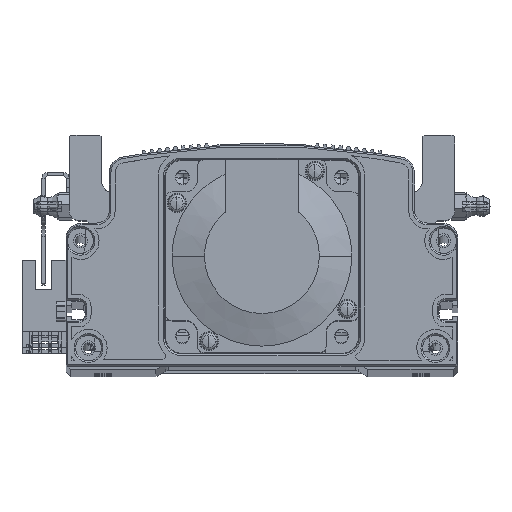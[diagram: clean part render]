
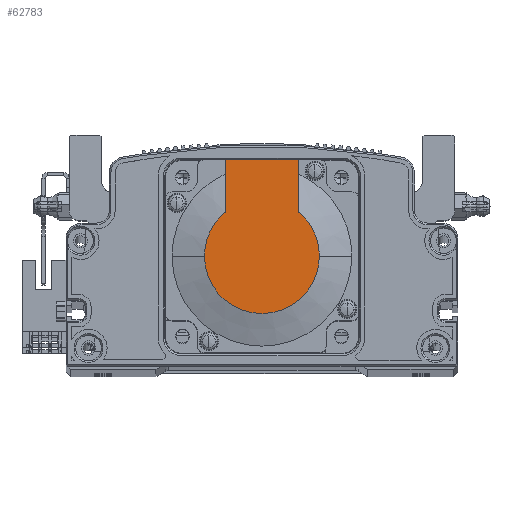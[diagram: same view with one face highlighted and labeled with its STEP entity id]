
A CAD part, top view. The second image highlights one B-rep face of the part: STEP entity #62783.
In plain terms, the highlighted planar face has unit normal (0, 0, 1) as drawn and (-1, 0, 0) by its records, which use the part's own axes.
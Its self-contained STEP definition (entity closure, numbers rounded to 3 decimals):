
#1704 = CARTESIAN_POINT ( 'NONE',  ( -118.5, 0., 0. ) ) ;
#2312 = AXIS2_PLACEMENT_3D ( 'NONE', #10829, #37083, #31157 ) ;
#2397 = DIRECTION ( 'NONE',  ( 0., -1., 0. ) ) ;
#9050 = DIRECTION ( 'NONE',  ( -1., 0., 0. ) ) ;
#9168 = EDGE_LOOP ( 'NONE', ( #86801, #27381, #33295, #56230, #13291, #17947 ) ) ;
#9467 = EDGE_CURVE ( 'NONE', #16130, #72147, #35062, .T. ) ;
#10829 = CARTESIAN_POINT ( 'NONE',  ( -118.5, 0., 0. ) ) ;
#11686 = CARTESIAN_POINT ( 'NONE',  ( -118.5, -8.941, -11.45 ) ) ;
#12090 = CARTESIAN_POINT ( 'NONE',  ( -118.5, 0., 0. ) ) ;
#12399 = AXIS2_PLACEMENT_3D ( 'NONE', #1704, #82242, #41656 ) ;
#13291 = ORIENTED_EDGE ( 'NONE', *, *, #16859, .F. ) ;
#13887 = EDGE_CURVE ( 'NONE', #69403, #17679, #70939, .T. ) ;
#16130 = VERTEX_POINT ( 'NONE', #55208 ) ;
#16859 = EDGE_CURVE ( 'NONE', #61747, #17679, #23963, .T. ) ;
#17679 = VERTEX_POINT ( 'NONE', #44608 ) ;
#17711 = VECTOR ( 'NONE', #46184, 1000. ) ;
#17947 = ORIENTED_EDGE ( 'NONE', *, *, #33517, .F. ) ;
#20402 = VERTEX_POINT ( 'NONE', #43400 ) ;
#21254 = AXIS2_PLACEMENT_3D ( 'NONE', #12090, #72739, #59108 ) ;
#23963 = LINE ( 'NONE', #49757, #47273 ) ;
#26417 = CARTESIAN_POINT ( 'NONE',  ( -118.5, 30., 11.45 ) ) ;
#27381 = ORIENTED_EDGE ( 'NONE', *, *, #53661, .T. ) ;
#31157 = DIRECTION ( 'NONE',  ( 0., 0., -1. ) ) ;
#31702 = DIRECTION ( 'NONE',  ( 0., -1., 0. ) ) ;
#33295 = ORIENTED_EDGE ( 'NONE', *, *, #45257, .T. ) ;
#33517 = EDGE_CURVE ( 'NONE', #16130, #61747, #53729, .T. ) ;
#35062 = LINE ( 'NONE', #11686, #45757 ) ;
#36222 = CIRCLE ( 'NONE', #21254, 17.881 ) ;
#36278 = CARTESIAN_POINT ( 'NONE',  ( -118.5, 0., 17.881 ) ) ;
#37083 = DIRECTION ( 'NONE',  ( -1., 0., 0. ) ) ;
#41656 = DIRECTION ( 'NONE',  ( 0., 0., -1. ) ) ;
#43400 = CARTESIAN_POINT ( 'NONE',  ( -118.5, 0., -17.881 ) ) ;
#44608 = CARTESIAN_POINT ( 'NONE',  ( -118.5, 13.735, 11.45 ) ) ;
#45257 = EDGE_CURVE ( 'NONE', #20402, #69403, #80499, .T. ) ;
#45757 = VECTOR ( 'NONE', #31702, 1000. ) ;
#46184 = DIRECTION ( 'NONE',  ( 0., 0., 1. ) ) ;
#47273 = VECTOR ( 'NONE', #2397, 1000. ) ;
#49597 = PLANE ( 'NONE',  #81451 ) ;
#49757 = CARTESIAN_POINT ( 'NONE',  ( -118.5, 0., 11.45 ) ) ;
#53661 = EDGE_CURVE ( 'NONE', #72147, #20402, #36222, .T. ) ;
#53729 = LINE ( 'NONE', #81113, #17711 ) ;
#55208 = CARTESIAN_POINT ( 'NONE',  ( -118.5, 30., -11.45 ) ) ;
#55518 = DIRECTION ( 'NONE',  ( 0., 0., 1. ) ) ;
#56230 = ORIENTED_EDGE ( 'NONE', *, *, #13887, .T. ) ;
#59108 = DIRECTION ( 'NONE',  ( 0., 0., -1. ) ) ;
#60683 = FACE_OUTER_BOUND ( 'NONE', #9168, .T. ) ;
#61747 = VERTEX_POINT ( 'NONE', #26417 ) ;
#62783 = ADVANCED_FACE ( 'NONE', ( #60683 ), #49597, .T. ) ;
#69403 = VERTEX_POINT ( 'NONE', #36278 ) ;
#70939 = CIRCLE ( 'NONE', #2312, 17.881 ) ;
#72147 = VERTEX_POINT ( 'NONE', #83773 ) ;
#72739 = DIRECTION ( 'NONE',  ( -1., 0., 0. ) ) ;
#80499 = CIRCLE ( 'NONE', #12399, 17.881 ) ;
#81113 = CARTESIAN_POINT ( 'NONE',  ( -118.5, 30., 25. ) ) ;
#81451 = AXIS2_PLACEMENT_3D ( 'NONE', #83052, #9050, #55518 ) ;
#82242 = DIRECTION ( 'NONE',  ( -1., 0., 0. ) ) ;
#83052 = CARTESIAN_POINT ( 'NONE',  ( -118.5, -8.941, 0. ) ) ;
#83773 = CARTESIAN_POINT ( 'NONE',  ( -118.5, 13.735, -11.45 ) ) ;
#86801 = ORIENTED_EDGE ( 'NONE', *, *, #9467, .T. ) ;
